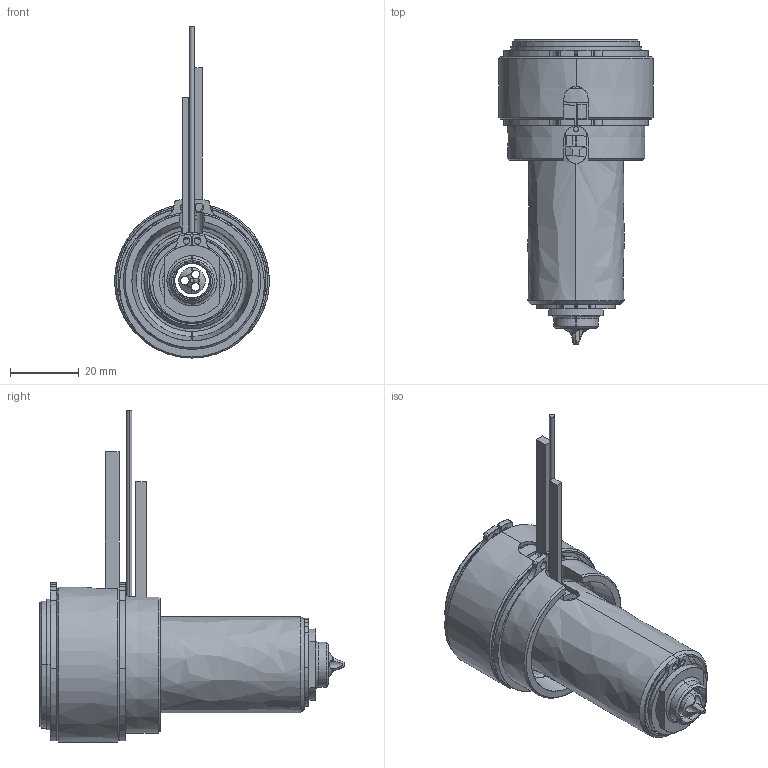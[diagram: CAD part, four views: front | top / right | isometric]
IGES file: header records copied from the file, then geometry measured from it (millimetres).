
Start section: SolidWorks IGES file using analytic representation for surfaces
Global section: file name: C:\Documents and Settings\ws-20\Desktop\TEM\UGEP4501-M-A-0 [Øf-1.17 ØC-10].IGS; native system: SolidWorks 2012; preprocessor: SolidWorks 2012; author: ws-20; date: 120424.090354; units: millimetre
Bounding box: 45 x 89.05 x 96.65 mm (x, y, z)
Surface area: 37806 mm2 (no closed solid volume)
Topology: 0 solids, 0 shells, 185 faces, 3517 edges, 3517 vertices
Faces by surface type: revolution 113, bspline 72
